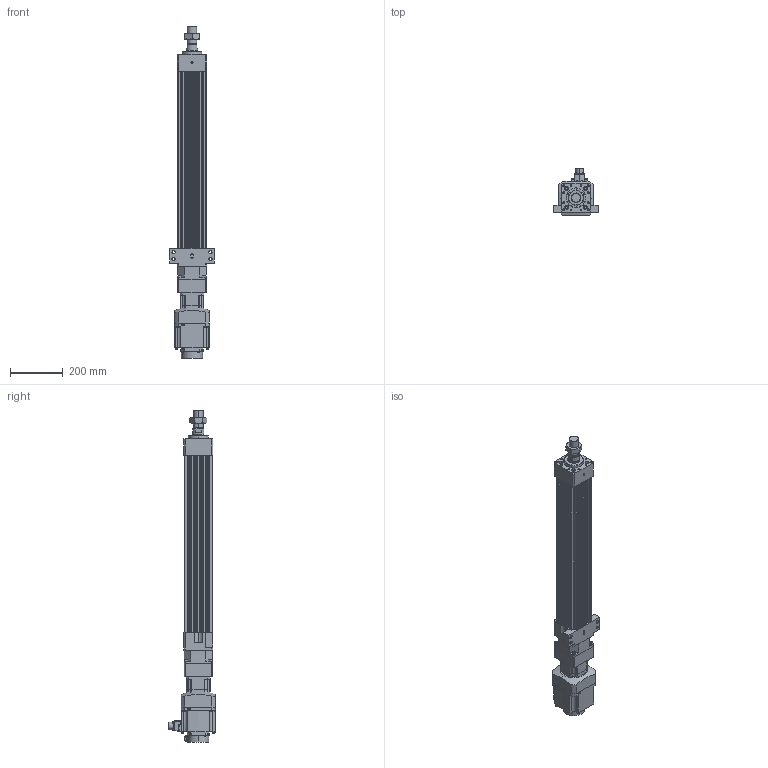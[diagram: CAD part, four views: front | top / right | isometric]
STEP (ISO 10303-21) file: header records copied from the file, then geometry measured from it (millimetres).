
FILE_DESCRIPTION (( 'STEP AP203' ), '1' );
FILE_NAME ('HES110NS(HS)-S500-W010G00-M-FFC.STEP', '2023-01-27T06:38:47', ( 'tms' ), ( '' ), 'SwSTEP 2.0', 'SolidWorks 2013', '' );
FILE_SCHEMA (( 'CONFIG_CONTROL_DESIGN' ));
Length unit declared in the file: millimetre
Products named in the file (8): HES110NS(HS)-S500-W010G00-M-FFC; P0401301004; M36X1.5P; HES110 ROD M ST500; AB090-003[HG-SR102B]; AB0901; HES110-S500-G090-FFC; HG-SR102
Assembly tree (7 placements, depth 3):
  HES110NS(HS)-S500-W010G00-M-FFC
    HES110-S500-G090-FFC
    HES110 ROD M ST500
    M36X1.5P
    AB090-003[HG-SR102B]
      AB0901
      P0401301004
    HG-SR102
Bounding box: 170 x 177.49 x 1258.5 mm (x, y, z)
Volume: 8117111.1 mm3; surface area: 1119776.6 mm2
Topology: 4 solids, 15 shells, 1217 faces, 3075 edges, 1984 vertices
Faces by surface type: plane 556, cylinder 547, cone 102, bspline 8, torus 4
Entity records: 38420 total; most frequent: CARTESIAN_POINT 7442, DIRECTION 6626, ORIENTED_EDGE 6054, EDGE_CURVE 3037, AXIS2_PLACEMENT_3D 2439, VERTEX_POINT 1984, VECTOR 1748, LINE 1748
